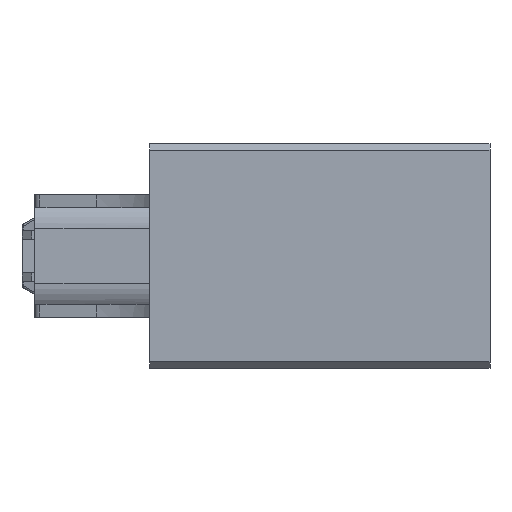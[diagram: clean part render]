
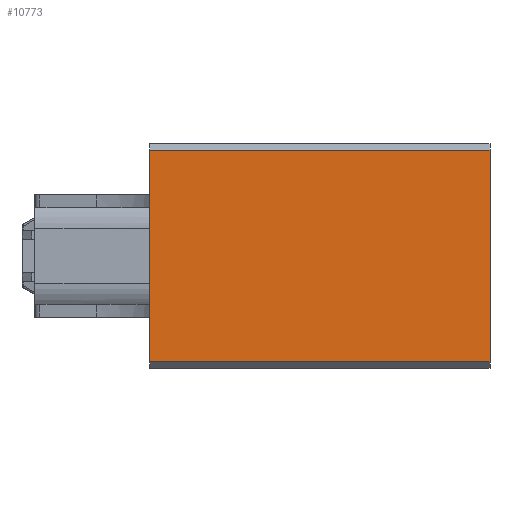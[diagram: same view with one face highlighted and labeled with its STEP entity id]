
A CAD part, front view. The second image highlights one B-rep face of the part: STEP entity #10773.
In plain terms, the highlighted planar face has unit normal (0, -1, 0).
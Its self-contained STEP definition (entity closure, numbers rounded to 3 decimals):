
#183 = DIRECTION ( 'NONE',  ( 0., 0., 1. ) ) ;
#568 = CARTESIAN_POINT ( 'NONE',  ( 0., -17.5, 17.5 ) ) ;
#574 = LINE ( 'NONE', #9672, #4573 ) ;
#610 = DIRECTION ( 'NONE',  ( 0., 0., -1. ) ) ;
#1194 = EDGE_CURVE ( 'NONE', #5057, #3070, #18934, .T. ) ;
#1572 = VECTOR ( 'NONE', #7161, 1000. ) ;
#1644 = PLANE ( 'NONE',  #3081 ) ;
#3070 = VERTEX_POINT ( 'NONE', #17205 ) ;
#3081 = AXIS2_PLACEMENT_3D ( 'NONE', #18112, #9208, #183 ) ;
#4573 = VECTOR ( 'NONE', #18540, 1000. ) ;
#4628 = EDGE_CURVE ( 'NONE', #10742, #5057, #16696, .T. ) ;
#4705 = ORIENTED_EDGE ( 'NONE', *, *, #4628, .T. ) ;
#4812 = VECTOR ( 'NONE', #610, 1000. ) ;
#5057 = VERTEX_POINT ( 'NONE', #5154 ) ;
#5154 = CARTESIAN_POINT ( 'NONE',  ( 0., -17.5, -16.5 ) ) ;
#5968 = VERTEX_POINT ( 'NONE', #13271 ) ;
#7161 = DIRECTION ( 'NONE',  ( 0., 0., -1. ) ) ;
#9208 = DIRECTION ( 'NONE',  ( 0., 1., 0. ) ) ;
#9672 = CARTESIAN_POINT ( 'NONE',  ( 53., -17.5, 16.5 ) ) ;
#9878 = ORIENTED_EDGE ( 'NONE', *, *, #13186, .T. ) ;
#10602 = EDGE_CURVE ( 'NONE', #5968, #3070, #17004, .T. ) ;
#10742 = VERTEX_POINT ( 'NONE', #16400 ) ;
#10773 = ADVANCED_FACE ( 'NONE', ( #15966 ), #1644, .F. ) ;
#12995 = ORIENTED_EDGE ( 'NONE', *, *, #10602, .F. ) ;
#13186 = EDGE_CURVE ( 'NONE', #5968, #10742, #574, .T. ) ;
#13271 = CARTESIAN_POINT ( 'NONE',  ( 53., -17.5, 16.5 ) ) ;
#14575 = CARTESIAN_POINT ( 'NONE',  ( 53., -17.5, 17.5 ) ) ;
#14902 = CARTESIAN_POINT ( 'NONE',  ( 53., -17.5, -16.5 ) ) ;
#15966 = FACE_OUTER_BOUND ( 'NONE', #18718, .T. ) ;
#16400 = CARTESIAN_POINT ( 'NONE',  ( 0., -17.5, 16.5 ) ) ;
#16696 = LINE ( 'NONE', #568, #4812 ) ;
#17004 = LINE ( 'NONE', #14575, #1572 ) ;
#17205 = CARTESIAN_POINT ( 'NONE',  ( 53., -17.5, -16.5 ) ) ;
#18112 = CARTESIAN_POINT ( 'NONE',  ( 53., -17.5, 17.5 ) ) ;
#18491 = VECTOR ( 'NONE', #18685, 1000. ) ;
#18540 = DIRECTION ( 'NONE',  ( -1., 0., 0. ) ) ;
#18676 = ORIENTED_EDGE ( 'NONE', *, *, #1194, .T. ) ;
#18685 = DIRECTION ( 'NONE',  ( 1., 0., 0. ) ) ;
#18718 = EDGE_LOOP ( 'NONE', ( #4705, #18676, #12995, #9878 ) ) ;
#18934 = LINE ( 'NONE', #14902, #18491 ) ;
